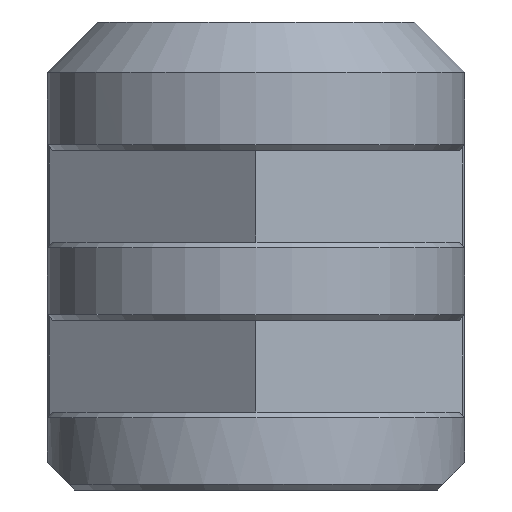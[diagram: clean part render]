
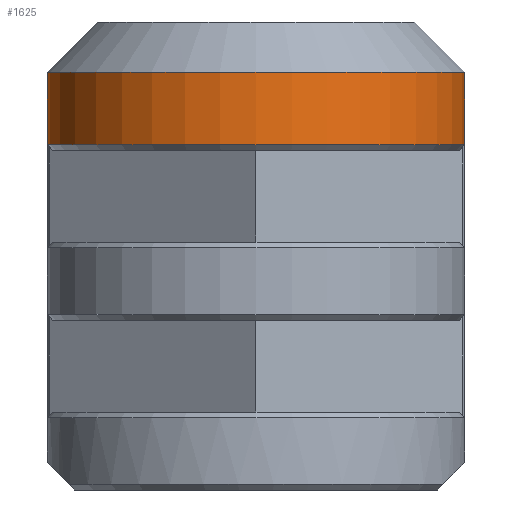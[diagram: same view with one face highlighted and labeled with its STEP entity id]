
A CAD part, left-side view. The second image highlights one B-rep face of the part: STEP entity #1625.
In plain terms, the highlighted cylindrical face has radius 7.5 mm (diameter 15 mm), a partial arc.
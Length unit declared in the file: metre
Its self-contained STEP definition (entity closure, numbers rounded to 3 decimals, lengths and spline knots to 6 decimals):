
#32=ELLIPSE('',#1742,0.010607,0.0075);
#33=ELLIPSE('',#1744,0.010607,0.0075);
#46=CIRCLE('',#1741,0.0075);
#47=CIRCLE('',#1743,0.0075);
#70=CYLINDRICAL_SURFACE('',#1740,0.0075);
#147=ORIENTED_EDGE('',*,*,#587,.T.);
#148=ORIENTED_EDGE('',*,*,#611,.T.);
#149=ORIENTED_EDGE('',*,*,#563,.F.);
#150=ORIENTED_EDGE('',*,*,#612,.T.);
#151=ORIENTED_EDGE('',*,*,#613,.T.);
#152=ORIENTED_EDGE('',*,*,#614,.T.);
#563=EDGE_CURVE('',#797,#798,#948,.T.);
#587=EDGE_CURVE('',#822,#821,#972,.T.);
#611=EDGE_CURVE('',#821,#798,#46,.F.);
#612=EDGE_CURVE('',#797,#841,#32,.F.);
#613=EDGE_CURVE('',#841,#842,#47,.F.);
#614=EDGE_CURVE('',#842,#822,#33,.T.);
#797=VERTEX_POINT('',#2341);
#798=VERTEX_POINT('',#2343);
#821=VERTEX_POINT('',#2390);
#822=VERTEX_POINT('',#2392);
#841=VERTEX_POINT('',#2442);
#842=VERTEX_POINT('',#2444);
#948=LINE('',#2342,#1145);
#972=LINE('',#2391,#1169);
#1145=VECTOR('',#1872,1.);
#1169=VECTOR('',#1898,1.);
#1336=EDGE_LOOP('',(#147,#148,#149,#150,#151,#152));
#1447=FACE_BOUND('',#1336,.T.);
#1625=ADVANCED_FACE('',(#1447),#70,.T.);
#1740=AXIS2_PLACEMENT_3D('',#2439,#1942,#1943);
#1741=AXIS2_PLACEMENT_3D('',#2440,#1944,#1945);
#1742=AXIS2_PLACEMENT_3D('',#2441,#1946,#1947);
#1743=AXIS2_PLACEMENT_3D('',#2443,#1948,#1949);
#1744=AXIS2_PLACEMENT_3D('',#2445,#1950,#1951);
#1872=DIRECTION('',(0.,0.,-1.));
#1898=DIRECTION('',(0.,0.,-1.));
#1942=DIRECTION('',(0.,0.,-1.));
#1943=DIRECTION('',(-1.,0.,0.));
#1944=DIRECTION('',(0.,0.,-1.));
#1945=DIRECTION('',(-1.,0.,0.));
#1946=DIRECTION('',(0.,0.707,-0.707));
#1947=DIRECTION('',(0.,-0.707,-0.707));
#1948=DIRECTION('',(0.,0.,1.));
#1949=DIRECTION('',(1.,0.,0.));
#1950=DIRECTION('',(0.,0.707,0.707));
#1951=DIRECTION('',(0.,0.707,-0.707));
#2341=CARTESIAN_POINT('',(-0.03,-0.0075,0.014));
#2342=CARTESIAN_POINT('',(-0.03,-0.0075,0.015));
#2343=CARTESIAN_POINT('',(-0.03,-0.0075,0.0124));
#2390=CARTESIAN_POINT('',(-0.03,0.0075,0.0124));
#2391=CARTESIAN_POINT('',(-0.03,0.0075,0.015));
#2392=CARTESIAN_POINT('',(-0.03,0.0075,0.014));
#2439=CARTESIAN_POINT('',(-0.03,0.,0.015));
#2440=CARTESIAN_POINT('',(-0.03,0.,0.0124));
#2441=CARTESIAN_POINT('',(-0.03,0.,0.0215));
#2442=CARTESIAN_POINT('',(-0.026258,-0.0065,0.015));
#2443=CARTESIAN_POINT('',(-0.03,0.,0.015));
#2444=CARTESIAN_POINT('',(-0.026258,0.0065,0.015));
#2445=CARTESIAN_POINT('',(-0.03,0.,0.0215));
